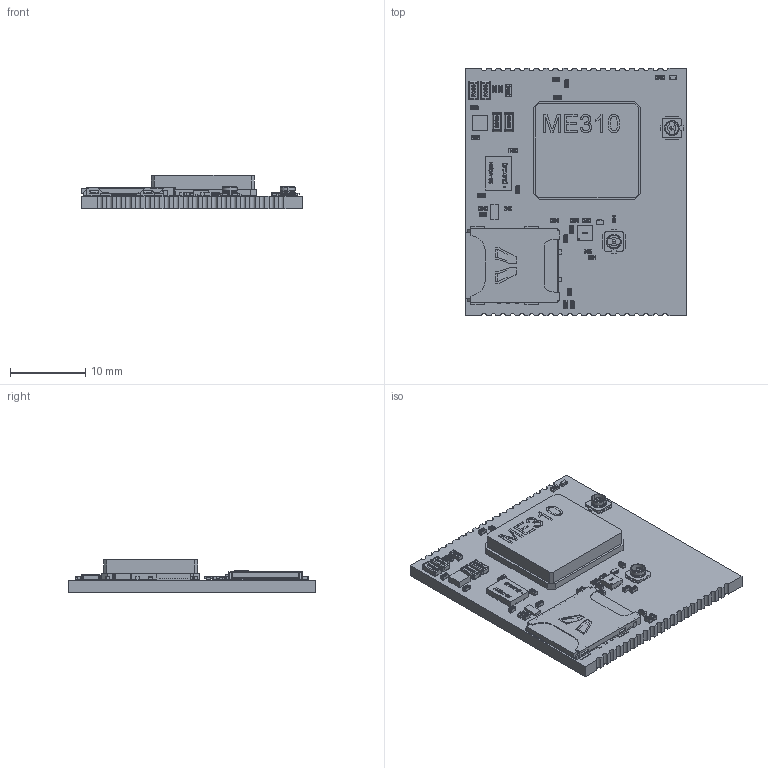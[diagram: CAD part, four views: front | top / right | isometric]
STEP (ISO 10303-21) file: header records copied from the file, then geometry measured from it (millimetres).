
FILE_DESCRIPTION(('Open CASCADE Model'),'2;1');
FILE_NAME('Open CASCADE Shape Model','2020-04-30T16:21:08',('Author'),( 'Open CASCADE'),'Open CASCADE STEP processor 6.8','Open CASCADE 6.8' ,'Unknown');
FILE_SCHEMA(('AUTOMOTIVE_DESIGN { 1 0 10303 214 1 1 1 1 }'));
Length unit declared in the file: millimetre
Products named in the file (72): PCB; BoardDES0272_10; Open CASCADE STEP translator 6.8 2.1.1; Open CASCADE STEP translator 6.8 2.1.1.1; R9DES0272_10; Resistor_1005-0402; R3DES0272_10; U3DES0272_10; 6326260880; Extruded; C22DES0272_10; Capacitor_0402(1005M); C23DES0272_10; C21DES0272_10; C20DES0272_10; R8DES0272_10; D1DES0272_10; LED_0402_RED; U4DES0272_10; DFN_6_2x2; U6DES0272_10; 6326257600; U5DES0272_10; VQFN-20_(3_5x4_5); R7DES0272_10; R1DES0272_10; L2DES0272_10; MuRata_LQW15; L1DES0272_10; Resistor_1609-0603; C19DES0272_10; Capacitor_0805(2012M); C18DES0272_10; C17DES0272_10; C11DES0272_10; C10DES0272_10; C9DES0272_10; C8DES0272_10; C7DES0272_10; C6DES0272_10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
Assembly tree (100 placements, depth 6):
  PCB
    BoardDES0272_10
      Open CASCADE STEP translator 6.8 2.1.1
        Open CASCADE STEP translator 6.8 2.1.1.1
    R9DES0272_10
      Resistor_1005-0402
    R3DES0272_10
      Resistor_1005-0402
    U3DES0272_10
      6326260880
        Extruded
    C22DES0272_10
      Capacitor_0402(1005M)
    C23DES0272_10
      Capacitor_0402(1005M)
    C21DES0272_10
      Capacitor_0402(1005M)
    C20DES0272_10
      Capacitor_0402(1005M)
    R8DES0272_10
      Resistor_1005-0402
    D1DES0272_10
      LED_0402_RED
    U4DES0272_10
      DFN_6_2x2
    U6DES0272_10
      6326257600
        Extruded
    U5DES0272_10
      VQFN-20_(3_5x4_5)
    R7DES0272_10
      Resistor_1005-0402
    R1DES0272_10
      Resistor_1005-0402
    L2DES0272_10
      MuRata_LQW15
    L1DES0272_10
      Resistor_1609-0603
    C19DES0272_10
      Capacitor_0805(2012M)
    C18DES0272_10
      Capacitor_0805(2012M)
    C17DES0272_10
      Capacitor_0402(1005M)
    C11DES0272_10
      Capacitor_0402(1005M)
    C10DES0272_10
      Capacitor_0402(1005M)
    C9DES0272_10
      Capacitor_0402(1005M)
    C8DES0272_10
      Capacitor_0402(1005M)
    C7DES0272_10
      Capacitor_0402(1005M)
    C6DES0272_10
      Capacitor_0402(1005M)
    C5DES0272_10
      Capacitor_0402(1005M)
    C4DES0272_10
      Capacitor_0805(2012M)
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Bounding box: 29.5 x 33 x 4.4 mm (x, y, z)
Volume: 2697.1 mm3; surface area: 4907.2 mm2
Topology: 135 solids, 135 shells, 5145 faces, 13300 edges, 8540 vertices
Faces by surface type: plane 2570, bspline 1548, cylinder 833, torus 93, extrusion 53, sphere 28, cone 16, revolution 4
Entity records: 90341 total; most frequent: CARTESIAN_POINT 32256, ORIENTED_EDGE 10912, DIRECTION 9195, EDGE_CURVE 5456, VECTOR 3833, LINE 3780, VERTEX_POINT 3531, AXIS2_PLACEMENT_3D 2680
